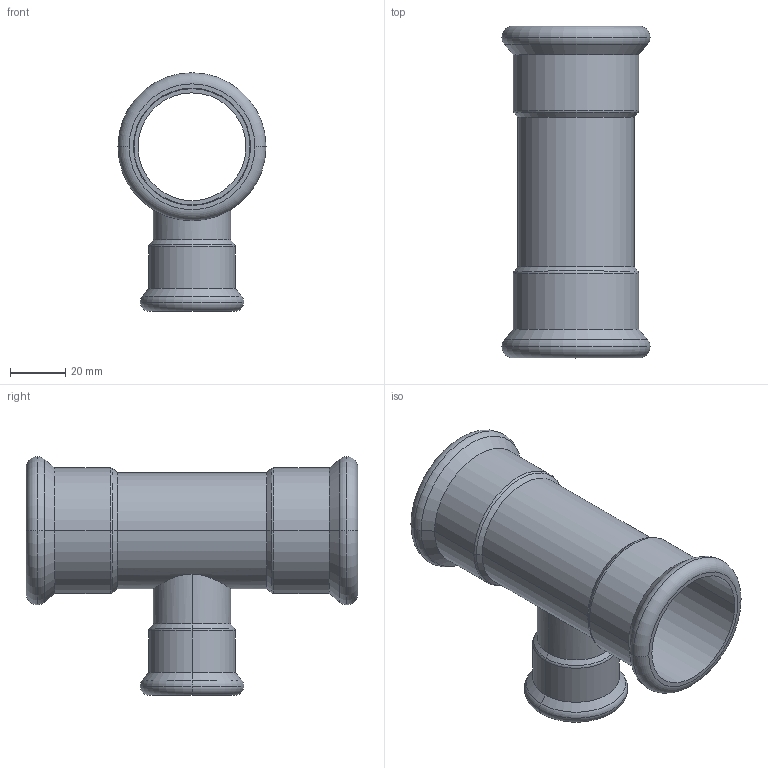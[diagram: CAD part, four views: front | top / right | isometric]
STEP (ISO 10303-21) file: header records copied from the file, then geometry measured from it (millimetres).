
FILE_DESCRIPTION(('CoCreate Modeling STEP Export'),'2;1');
FILE_NAME('C1415 42x28x42.stp','2014-11-12T10:33:19',(''),(''),'CoCreate Modeling STEP processor for AP214 (Solid Model)','CoCreate Modeling 17.00A 17-Jun-2010 (C) Parametric Technology GmbH','');
FILE_SCHEMA(('AUTOMOTIVE_DESIGN { 1 0 10303 214 1 1 1 1 }'));
Length unit declared in the file: millimetre
Products named in the file (2): C1415_42x28x42
Assembly tree (1 placements, depth 2):
  C1415_42x28x42
    C1415_42x28x42
Bounding box: 53.55 x 120 x 86.28 mm (x, y, z)
Volume: 41013.4 mm3; surface area: 42582.9 mm2
Topology: 1 solids, 1 shells, 66 faces, 135 edges, 79 vertices
Faces by surface type: cylinder 27, torus 18, cone 12, plane 9
Entity records: 2581 total; most frequent: CARTESIAN_POINT 1354, ORIENTED_EDGE 270, DIRECTION 218, EDGE_CURVE 135, AXIS2_PLACEMENT_3D 90, VERTEX_POINT 79, EDGE_LOOP 76, FACE_OUTER_BOUND 66
